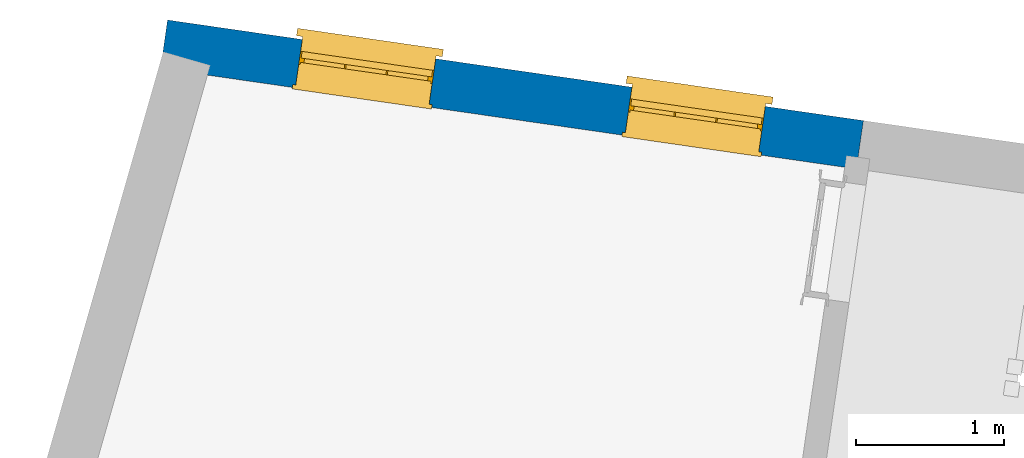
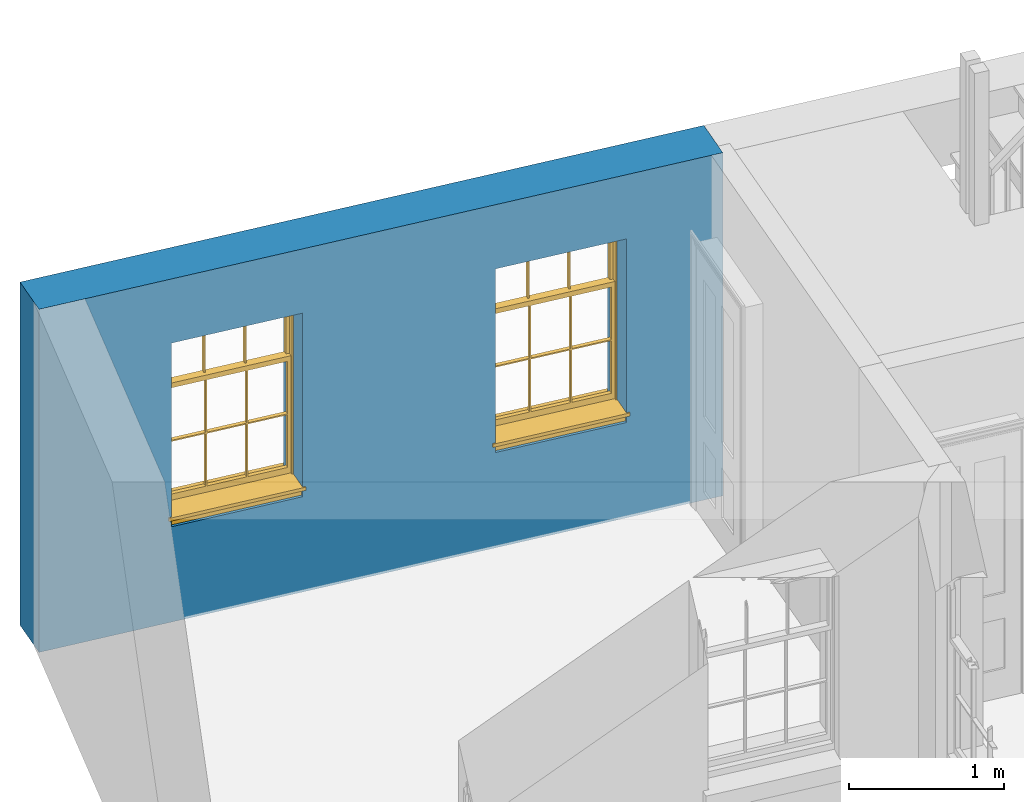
# One storey, part 3 of 4: 2 windows, 1 wall, 2 openings.
"""IFC4 building model written with IfcOpenShell, lengths in metres."""

from ifc_helpers import new_model, si_unit, frame, origin, origin_with_axes, place, context, subcontext, project, spatial, polyline, outline, extrude, faceted_brep, source, transform, mapped, material, layer, layer_set, layer_usage, type_object, type_shapes, element, fill, save


model = new_model("IFC4")

# Units and contexts
model_context = context("Model", 3, world=origin_with_axes())
body_context = subcontext(model_context, "Body", "Model", "MODEL_VIEW")
ifc_project = project(units=[si_unit("PLANEANGLEUNIT", "RADIAN"), si_unit("MASSUNIT", "GRAM", prefix="KILO"), si_unit("FORCEUNIT", "NEWTON", prefix="KILO"), si_unit("LENGTHUNIT", "METRE"), si_unit("AREAUNIT", "SQUARE_METRE"), si_unit("VOLUMEUNIT", "CUBIC_METRE")], contexts=[model_context, model_context])

# Sites, building, storey
site_1_placement = place(None, origin_with_axes())
site_1 = spatial("IfcSite", under=ifc_project, at=site_1_placement, Name="Tamar")
site_2_placement = place(site_1_placement, origin_with_axes())
site_2 = spatial("IfcSite", under=site_1, at=site_2_placement, Name="Site plot-30", CompositionType="ELEMENT")
building_placement = place(None, origin_with_axes())
building = spatial("IfcBuilding", under=site_2, at=building_placement, Name="Building plot-30", CompositionType="ELEMENT")
storey_placement = place(None, frame((0.0, 0.0, 28.3), z_axis=(0.0, 0.0, 1.0), x_axis=(1.0, 0.0, 0.0)))
storey = spatial("IfcBuildingStorey", under=building, at=storey_placement, Name="plot-30 1", CompositionType="ELEMENT", Elevation=28.3)

# Wall, openings, windows
ifc_material = material(Name="Masonry")
ifc_layer = layer(ifc_material, 0.33, ventilated=False)
ifc_layer_set = layer_set([ifc_layer], Name="exterior_0.08_0.25")
ifc_layer_usage = layer_usage(ifc_layer_set, "AXIS2", "POSITIVE", -0.25)
wall_type = type_object("IfcWallType", Name="exterior_0.08_0.25", PredefinedType="SOLIDWALL", material=ifc_layer_set)
wall_placement = place(storey_placement, frame((286.383321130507, 263.50148224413, 0.0), z_axis=(0.0, 0.0, 1.0), x_axis=(-0.989705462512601, 0.143119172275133, 0.0)))
wall = element("IfcWall", 1, at=wall_placement, inside=storey, type_object=wall_type, material=ifc_layer_usage, Name="exterior", context=body_context, shape_type="SweptSolid", body=[
    extrude(outline(polyline([(1.47007134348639e-16, 0.0800000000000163), (-1.54723031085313e-14, -0.249999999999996), (4.74689612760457, -0.250000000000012), (4.74689612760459, 0.08), (1.47007134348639e-16, 0.0800000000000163)])), origin_with_axes(), (0.0, 0.0, 1.0), 2.7),
])
opening_1_placement = place(wall_placement, frame((0.669224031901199, 0.0, 0.75)))
opening_1 = element("IfcOpeningElement", 2, at=opening_1_placement, cuts=wall, Name="My Opening", ObjectType="Opening", context=body_context, shape_type="SweptSolid", body=[
    extrude(outline(polyline([(0.0, -0.270000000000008), (0.909999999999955, -0.270000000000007), (0.909999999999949, 1.09999999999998), (-6.32827124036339e-15, 1.09999999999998), (0.0, -0.270000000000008)])), origin_with_axes(), (0.0, 0.0, 1.0), 1.445),
])
opening_2_placement = place(wall_placement, frame((2.91767209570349, 0.0, 0.75)))
opening_2 = element("IfcOpeningElement", 3, at=opening_2_placement, cuts=wall, Name="My Opening", ObjectType="Opening", context=body_context, shape_type="SweptSolid", body=[
    extrude(outline(polyline([(0.0, -0.26999999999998), (0.909999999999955, -0.269999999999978), (0.909999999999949, 1.10000000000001), (-7.54951656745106e-15, 1.10000000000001), (0.0, -0.26999999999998)])), origin_with_axes(), (0.0, 0.0, 1.0), 1.445),
])
window_type = type_object("IfcWindowType", Name="sash_shorter", PartitioningType="DOUBLE_PANEL_HORIZONTAL", PredefinedType="NOTDEFINED")
shared_shape = source(origin(), body_context, "Body", "Brep", [
    faceted_brep([(0.876875, 0.145, 0.999097), (0.876875, 0.145, 1.411875), (0.9, 0.145, 1.435), (0.033125, 0.145, 1.411875), (0.033125, 0.145, 0.999097), (0.01, 0.145, 1.435), (0.033125, 0.115, 1.411875), (0.01, 0.115, 1.435), (0.033125, 0.115, 0.999097), (0.876875, 0.115, 1.411875), (0.876875, 0.115, 0.999097), (0.9, 0.115, 1.435), (0.033125, 0.145, 0.960972), (0.01, 0.145, 0.960972), (0.033125, 0.145, 0.548195), (0.876875, 0.145, 0.960972), (0.876875, 0.145, 0.548195), (0.9, 0.145, 0.960972), (0.876875, 0.145, 0.538195), (0.876875, 0.145, 0.125417), (0.9, 0.145, 0.077167), (0.033125, 0.145, 0.125417), (0.033125, 0.145, 0.538195), (0.01, 0.145, 0.077167), (0.9, 0.115, 0.960972), (0.01, 0.115, 0.960972), (-0.0425, 0.0, 0.01), (-0.0425, -0.05, 0.001667), (0.0, 0.0, 0.01), (0.9525, 0.0, 0.01), (0.91, 0.0, 0.01), (0.9525, -0.05, 0.001667), (-0.02, 0.33, 0.077167), (0.0, 0.33, 0.077167), (-0.02, 0.36, 0.077167), (0.0, 0.19, 0.077167), (0.01, 0.19, 0.077167), (0.91, 0.19, 0.077167), (0.91, 0.33, 0.077167), (0.9, 0.19, 0.077167), (0.93, 0.33, 0.077167), (0.93, 0.36, 0.077167), (0.01, 0.145, 0.999097), (0.01, 0.175, 0.999097), (0.9, 0.145, 0.999097), (0.9, 0.175, 0.999097), (0.876875, 0.175, 0.125417), (0.876875, 0.175, 0.538195), (0.9, 0.175, 0.077167), (0.876875, 0.175, 0.548195), (0.876875, 0.175, 0.960972), (0.033125, 0.175, 0.125417), (0.01, 0.175, 0.077167), (0.033125, 0.175, 0.538195), (0.033125, 0.175, 0.960972), (0.033125, 0.175, 0.548195), (-0.02, 0.33, 0.052167), (-0.02, 0.36, 0.052167), (0.93, 0.36, 0.052167), (0.93, 0.33, 0.052167), (0.91, 0.33, 0.052167), (0.0, 0.33, 0.052167), (0.91, 0.1, 0.026667), (0.0, 0.1, 0.026667), (-0.0425, -0.05, -0.123333), (0.9525, -0.05, -0.123333), (-0.0425, 0.0, -0.123333), (0.9525, 0.0, -0.123333), (0.01, 0.19, 1.435), (0.9, 0.19, 1.435), (0.0, 0.19, 1.445), (0.91, 0.19, 1.445), (0.01, 0.1, 0.077167), (0.9, 0.1, 0.077167), (0.592292, 0.145, 0.125417), (0.592292, 0.175, 0.125417), (0.317708, 0.175, 0.125417), (0.317708, 0.145, 0.125417), (0.592292, 0.145, 0.548195), (0.317708, 0.145, 0.548195), (0.317708, 0.145, 0.538195), (0.592292, 0.145, 0.538195), (0.592292, 0.175, 0.548195), (0.317708, 0.175, 0.548195), (0.602292, 0.175, 0.548195), (0.602292, 0.145, 0.548195), (0.317708, 0.175, 0.538195), (0.307708, 0.175, 0.125417), (0.307708, 0.175, 0.538195), (0.602292, 0.175, 0.538195), (0.602292, 0.175, 0.125417), (0.592292, 0.175, 0.538195), (0.307708, 0.175, 0.548195), (0.317708, 0.175, 0.960972), (0.307708, 0.175, 0.960972), (0.602292, 0.175, 0.960972), (0.592292, 0.175, 0.960972), (0.307708, 0.145, 0.538195), (0.307708, 0.145, 0.125417), (0.307708, 0.145, 0.548195), (0.307708, 0.145, 0.960972), (0.592292, 0.145, 0.960972), (0.317708, 0.145, 0.960972), (0.602292, 0.145, 0.960972), (0.602292, 0.145, 0.538195), (0.602292, 0.145, 0.125417), (0.317708, 0.115, 1.411875), (0.307708, 0.115, 1.411875), (0.307708, 0.115, 0.999097), (0.317708, 0.115, 0.999097), (0.602292, 0.115, 1.411875), (0.592292, 0.115, 1.411875), (0.592292, 0.115, 0.999097), (0.602292, 0.115, 0.999097), (0.317708, 0.145, 0.999097), (0.307708, 0.145, 0.999097), (0.307708, 0.145, 1.411875), (0.317708, 0.145, 1.411875), (0.602292, 0.145, 0.999097), (0.592292, 0.145, 0.999097), (0.592292, 0.145, 1.411875), (0.602292, 0.145, 1.411875), (0.91, 0.1, 1.445), (0.9, 0.1, 1.435), (0.01, 0.1, 1.435), (0.0, 0.1, 1.445), (0.91, 0.0, 0.0), (0.0, 0.0, 0.0), (0.91, 0.33, 0.0), (0.0, 0.33, 0.0)], [[[0, 1, 2]], [[3, 4, 5]], [[6, 7, 8]], [[9, 10, 11]], [[12, 13, 14]], [[15, 16, 17]], [[18, 19, 20]], [[21, 22, 23]], [[24, 15, 17]], [[13, 12, 25]], [[26, 27, 28]], [[29, 30, 31]], [[32, 33, 34]], [[35, 36, 33]], [[37, 38, 39]], [[40, 41, 38]], [[42, 4, 43]], [[44, 45, 0]], [[46, 47, 48]], [[49, 50, 45]], [[51, 52, 53]], [[54, 55, 43]], [[38, 33, 36, 39]], [[41, 34, 33, 38]], [[56, 32, 34, 57]], [[57, 34, 41, 58]], [[58, 41, 40, 59]], [[57, 58, 60, 61]], [[52, 48, 39, 36]], [[62, 63, 28, 30]], [[27, 31, 30, 28]], [[27, 64, 65, 31]], [[66, 67, 65, 64]], [[2, 5, 68, 69]], [[68, 70, 71, 69]], [[20, 23, 72, 73]], [[73, 72, 63, 62]], [[74, 75, 76, 77]], [[78, 79, 80, 81]], [[78, 82, 83, 79]], [[16, 49, 84, 85]], [[86, 76, 87, 88]], [[89, 90, 75, 91]], [[92, 88, 53, 55]], [[82, 91, 86, 83]], [[93, 83, 92, 94]], [[95, 84, 82, 96]], [[89, 84, 49, 47]], [[97, 88, 87, 98]], [[22, 53, 88, 97]], [[81, 91, 75, 74]], [[80, 86, 91, 81]], [[77, 76, 86, 80]], [[99, 92, 55, 14]], [[100, 94, 92, 99]], [[101, 96, 82, 78]], [[79, 83, 93, 102]], [[85, 84, 95, 103]], [[104, 89, 47, 18]], [[105, 90, 89, 104]], [[104, 18, 16, 85]], [[80, 97, 98, 77]], [[104, 81, 74, 105]], [[103, 101, 78, 85]], [[99, 14, 22, 97]], [[102, 100, 99, 79]], [[106, 107, 108, 109]], [[110, 111, 112, 113]], [[114, 115, 116, 117]], [[118, 119, 120, 121]], [[107, 116, 115, 108]], [[111, 120, 119, 112]], [[109, 114, 117, 106]], [[113, 118, 121, 110]], [[85, 78, 81, 104]], [[84, 89, 91, 82]], [[83, 86, 88, 92]], [[79, 99, 97, 80]], [[109, 112, 119, 114]], [[102, 93, 96, 101]], [[106, 117, 120, 111]], [[98, 87, 51, 21]], [[6, 3, 116, 107]], [[110, 121, 1, 9]], [[19, 46, 90, 105]], [[26, 66, 64, 27]], [[29, 31, 65, 67]], [[25, 24, 112, 109]], [[11, 7, 106, 111]], [[75, 48, 52, 76]], [[43, 45, 96, 93]], [[45, 43, 114, 119]], [[5, 2, 120, 117]], [[24, 25, 102, 101]], [[42, 5, 4]], [[2, 44, 0]], [[49, 45, 48, 47]], [[52, 43, 55, 53]], [[14, 13, 23, 22]], [[20, 17, 16, 18]], [[24, 11, 10]], [[25, 8, 7]], [[8, 4, 3, 6]], [[9, 1, 0, 10]], [[15, 50, 49, 16]], [[18, 47, 46, 19]], [[21, 51, 53, 22]], [[14, 55, 54, 12]], [[44, 2, 69, 45]], [[68, 5, 42, 43]], [[36, 35, 70, 68]], [[39, 69, 71, 37]], [[62, 122, 123, 73]], [[63, 72, 124, 125]], [[8, 108, 115, 4]], [[113, 10, 0, 118]], [[94, 100, 12, 54]], [[17, 20, 73, 24]], [[72, 23, 13, 25]], [[52, 36, 68, 43]], [[69, 39, 48, 45]], [[11, 24, 73, 123]], [[7, 124, 72, 25]], [[23, 77, 98]], [[98, 21, 23]], [[105, 74, 20]], [[20, 19, 105]], [[20, 74, 77, 23]], [[113, 112, 24]], [[24, 10, 113]], [[25, 109, 108]], [[108, 8, 25]], [[110, 9, 11]], [[11, 111, 110]], [[7, 6, 107]], [[107, 106, 7]], [[5, 117, 116]], [[116, 3, 5]], [[121, 120, 2]], [[2, 1, 121]], [[11, 123, 124, 7]], [[122, 125, 124, 123]], [[43, 93, 94]], [[94, 54, 43]], [[96, 45, 95]], [[50, 95, 45]], [[15, 103, 95, 50]], [[48, 75, 90]], [[90, 46, 48]], [[87, 76, 52]], [[52, 51, 87]], [[103, 15, 24]], [[24, 101, 103]], [[100, 102, 25]], [[25, 12, 100]], [[115, 114, 43]], [[43, 4, 115]], [[118, 0, 45]], [[45, 119, 118]], [[71, 70, 125, 122]], [[70, 35, 63, 125]], [[122, 62, 37, 71]], [[126, 67, 66, 127]], [[60, 58, 59]], [[38, 60, 59, 40]], [[61, 56, 57]], [[32, 56, 61, 33]], [[61, 60, 128, 129]], [[62, 60, 38, 37]], [[126, 128, 60, 62]], [[33, 61, 63, 35]], [[61, 129, 127, 63]], [[128, 126, 127, 129]], [[28, 127, 66, 26]], [[63, 127, 28]], [[29, 67, 126, 30]], [[30, 126, 62]]]),
])
type_shapes(window_type, [shared_shape])
window_1_placement = place(storey_placement, frame((285.759628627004, 263.864481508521, 0.75), z_axis=(0.0, 0.0, 1.0), x_axis=(-0.900631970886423, 0.130238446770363, 0.0)))
window_1 = element("IfcWindow", 4, at=window_1_placement, inside=storey, type_object=window_type, Name="bedroom outside window", OverallHeight=1.445, OverallWidth=0.91, context=body_context, shape_type="MappedRepresentation", body=[
    mapped(shared_shape, transform((0.0, 0.0, 0.0), scale=1.0)),
])
fill(opening_1, window_1)
window_2_placement = place(storey_placement, frame((283.534327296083, 264.186277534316, 0.75), z_axis=(0.0, 0.0, 1.0), x_axis=(-0.900631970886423, 0.130238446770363, 0.0)))
window_2 = element("IfcWindow", 5, at=window_2_placement, inside=storey, type_object=window_type, Name="bedroom outside window", OverallHeight=1.445, OverallWidth=0.91, context=body_context, shape_type="MappedRepresentation", body=[
    mapped(shared_shape, transform((0.0, 0.0, 0.0), scale=1.0)),
])
fill(opening_2, window_2)

save(model, "model.ifc")
